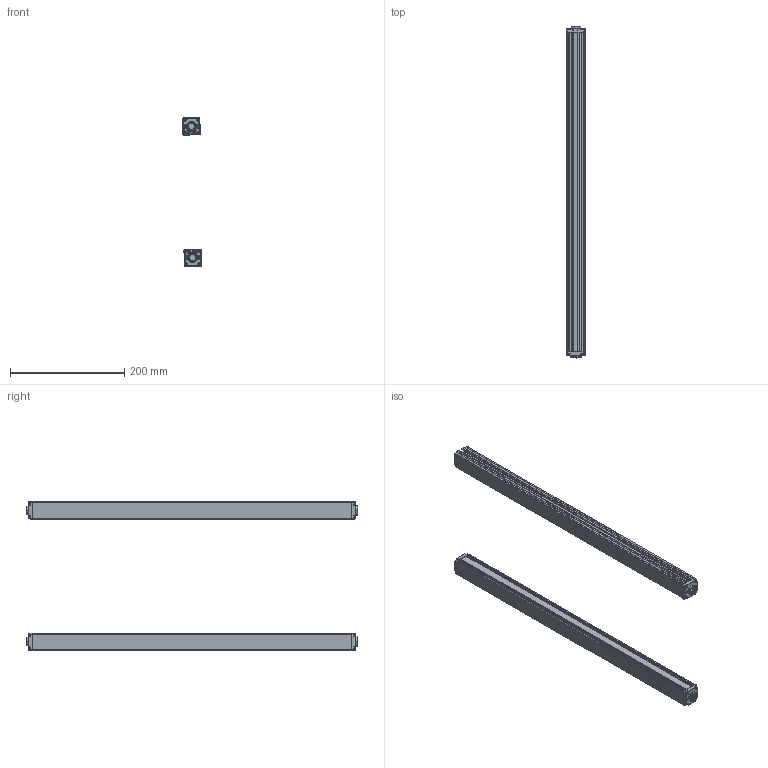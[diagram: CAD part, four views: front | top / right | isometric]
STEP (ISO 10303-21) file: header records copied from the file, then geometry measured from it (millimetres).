
FILE_DESCRIPTION (( 'STEP AP203' ), '1' );
FILE_NAME ('ZDA5410-560.STEP', '2022-08-30T03:53:53', ( 'Windows 蚚誧' ), ( 'Organization' ), 'SwSTEP 2.0', 'SolidWorks 2020', '' );
FILE_SCHEMA (( 'CONFIG_CONTROL_DESIGN' ));
Length unit declared in the file: millimetre
Products named in the file (5): 錨璃10; ZDA5410-560; 錨璃1; 錨璃8; 錨璃8 - 萵掛 (2)
Assembly tree (8 placements, depth 2):
  ZDA5410-560
    錨璃1  x2
    錨璃8  x2
    錨璃8 - 萵掛 (2)  x2
    錨璃10  x2
Bounding box: 32.36 x 581.4 x 260.35 mm (x, y, z)
Volume: 360544.6 mm3; surface area: 382800.6 mm2
Topology: 8 solids, 8 shells, 1032 faces, 2690 edges, 1668 vertices
Faces by surface type: plane 464, cylinder 310, cone 120, bspline 58, torus 48, sphere 32
Entity records: 17901 total; most frequent: CARTESIAN_POINT 4731, ORIENTED_EDGE 2666, DIRECTION 2616, EDGE_CURVE 1333, AXIS2_PLACEMENT_3D 894, VERTEX_POINT 834, VECTOR 828, LINE 828
